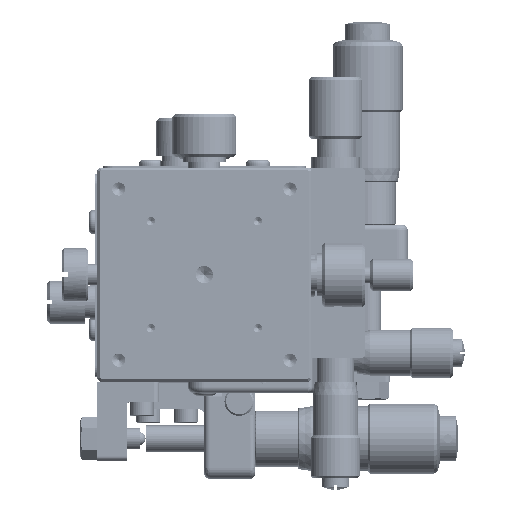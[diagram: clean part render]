
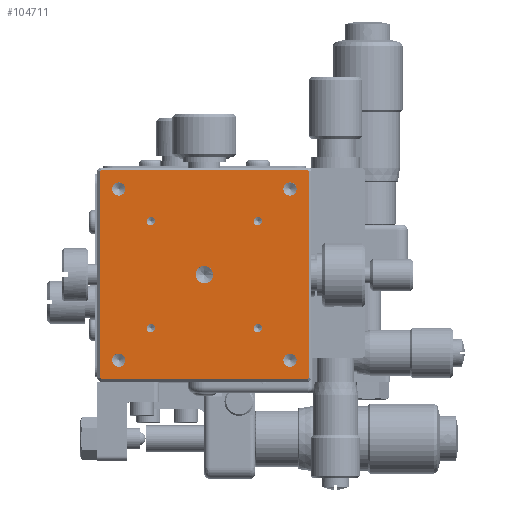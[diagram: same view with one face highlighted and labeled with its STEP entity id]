
A CAD part, top view. The second image highlights one B-rep face of the part: STEP entity #104711.
In plain terms, the highlighted planar face has unit normal (0, 0, 1).
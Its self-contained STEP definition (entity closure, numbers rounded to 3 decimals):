
#104252=CARTESIAN_POINT('',(19.5,19.293,-35.));
#104253=VERTEX_POINT('',#104252);
#104254=CARTESIAN_POINT('',(19.5,-19.293,-35.));
#104255=VERTEX_POINT('',#104254);
#104256=CARTESIAN_POINT('',(19.5,19.293,-35.));
#104257=DIRECTION('',(0.0,-1.0,0.0));
#104258=VECTOR('',#104257,38.586);
#104259=LINE('',#104256,#104258);
#104260=EDGE_CURVE('',#104253,#104255,#104259,.T.);
#104290=CARTESIAN_POINT('',(19.293,-19.5,-35.));
#104291=VERTEX_POINT('',#104290);
#104292=CARTESIAN_POINT('',(19.5,-19.293,-35.));
#104293=DIRECTION('',(-0.707,-0.707,0.0));
#104294=VECTOR('',#104293,0.293);
#104295=LINE('',#104292,#104294);
#104296=EDGE_CURVE('',#104255,#104291,#104295,.T.);
#104321=CARTESIAN_POINT('',(-19.293,-19.5,-35.));
#104322=VERTEX_POINT('',#104321);
#104323=CARTESIAN_POINT('',(19.293,-19.5,-35.));
#104324=DIRECTION('',(-1.0,0.0,0.0));
#104325=VECTOR('',#104324,38.586);
#104326=LINE('',#104323,#104325);
#104327=EDGE_CURVE('',#104291,#104322,#104326,.T.);
#104343=CARTESIAN_POINT('',(-19.5,19.293,-35.));
#104344=VERTEX_POINT('',#104343);
#104345=CARTESIAN_POINT('',(-19.293,19.5,-35.));
#104346=VERTEX_POINT('',#104345);
#104347=CARTESIAN_POINT('',(-19.5,19.293,-35.));
#104348=DIRECTION('',(0.707,0.707,0.0));
#104349=VECTOR('',#104348,0.293);
#104350=LINE('',#104347,#104349);
#104351=EDGE_CURVE('',#104344,#104346,#104350,.T.);
#104381=CARTESIAN_POINT('',(-19.5,-19.293,-35.));
#104382=VERTEX_POINT('',#104381);
#104383=CARTESIAN_POINT('',(-19.5,-19.293,-35.));
#104384=DIRECTION('',(0.0,1.0,0.0));
#104385=VECTOR('',#104384,38.586);
#104386=LINE('',#104383,#104385);
#104387=EDGE_CURVE('',#104382,#104344,#104386,.T.);
#104405=CARTESIAN_POINT('',(-19.293,-19.5,-35.));
#104406=DIRECTION('',(-0.707,0.707,0.0));
#104407=VECTOR('',#104406,0.293);
#104408=LINE('',#104405,#104407);
#104409=EDGE_CURVE('',#104322,#104382,#104408,.T.);
#104431=CARTESIAN_POINT('',(19.293,19.5,-35.));
#104432=VERTEX_POINT('',#104431);
#104433=CARTESIAN_POINT('',(-19.293,19.5,-35.));
#104434=DIRECTION('',(1.0,0.0,0.0));
#104435=VECTOR('',#104434,38.586);
#104436=LINE('',#104433,#104435);
#104437=EDGE_CURVE('',#104346,#104432,#104436,.T.);
#104453=CARTESIAN_POINT('',(19.293,19.5,-35.));
#104454=DIRECTION('',(0.707,-0.707,0.0));
#104455=VECTOR('',#104454,0.293);
#104456=LINE('',#104453,#104455);
#104457=EDGE_CURVE('',#104432,#104253,#104456,.T.);
#104597=CARTESIAN_POINT('',(0.0,-47.,-35.));
#104598=DIRECTION('',(0.0,0.0,-1.0));
#104599=DIRECTION('',(-1.0,0.0,0.0));
#104600=AXIS2_PLACEMENT_3D('',#104597,#104598,#104599);
#104601=PLANE('',#104600);
#104602=ORIENTED_EDGE('',*,*,#104351,.F.);
#104603=ORIENTED_EDGE('',*,*,#104387,.F.);
#104604=ORIENTED_EDGE('',*,*,#104409,.F.);
#104605=ORIENTED_EDGE('',*,*,#104327,.F.);
#104606=ORIENTED_EDGE('',*,*,#104296,.F.);
#104607=ORIENTED_EDGE('',*,*,#104260,.F.);
#104608=ORIENTED_EDGE('',*,*,#104457,.F.);
#104609=ORIENTED_EDGE('',*,*,#104437,.F.);
#104610=EDGE_LOOP('',(#104602,#104603,#104604,#104605,#104606,#104607,#104608,#104609));
#104611=FACE_OUTER_BOUND('',#104610,.T.);
#104612=CARTESIAN_POINT('',(10.784,-10.0,-35.));
#104613=VERTEX_POINT('',#104612);
#104614=CARTESIAN_POINT('',(10.0,-10.0,-35.));
#104615=DIRECTION('',(0.0,0.0,-1.0));
#104616=DIRECTION('',(1.0,0.0,0.0));
#104617=AXIS2_PLACEMENT_3D('',#104614,#104615,#104616);
#104618=CIRCLE('',#104617,0.784);
#104619=EDGE_CURVE('',#104613,#104613,#104618,.T.);
#104620=ORIENTED_EDGE('',*,*,#104619,.T.);
#104621=EDGE_LOOP('',(#104620));
#104622=FACE_BOUND('',#104621,.T.);
#104623=CARTESIAN_POINT('',(-9.217,-10.0,-35.));
#104624=VERTEX_POINT('',#104623);
#104625=CARTESIAN_POINT('',(-10.0,-10.0,-35.));
#104626=DIRECTION('',(0.0,0.0,-1.0));
#104627=DIRECTION('',(1.0,0.0,0.0));
#104628=AXIS2_PLACEMENT_3D('',#104625,#104626,#104627);
#104629=CIRCLE('',#104628,0.784);
#104630=EDGE_CURVE('',#104624,#104624,#104629,.T.);
#104631=ORIENTED_EDGE('',*,*,#104630,.T.);
#104632=EDGE_LOOP('',(#104631));
#104633=FACE_BOUND('',#104632,.T.);
#104634=CARTESIAN_POINT('',(10.784,10.0,-35.));
#104635=VERTEX_POINT('',#104634);
#104636=CARTESIAN_POINT('',(10.0,10.0,-35.));
#104637=DIRECTION('',(0.0,0.0,-1.0));
#104638=DIRECTION('',(1.0,0.0,0.0));
#104639=AXIS2_PLACEMENT_3D('',#104636,#104637,#104638);
#104640=CIRCLE('',#104639,0.784);
#104641=EDGE_CURVE('',#104635,#104635,#104640,.T.);
#104642=ORIENTED_EDGE('',*,*,#104641,.T.);
#104643=EDGE_LOOP('',(#104642));
#104644=FACE_BOUND('',#104643,.T.);
#104645=CARTESIAN_POINT('',(-9.217,10.0,-35.));
#104646=VERTEX_POINT('',#104645);
#104647=CARTESIAN_POINT('',(-10.0,10.0,-35.));
#104648=DIRECTION('',(0.0,0.0,-1.0));
#104649=DIRECTION('',(1.0,0.0,0.0));
#104650=AXIS2_PLACEMENT_3D('',#104647,#104648,#104649);
#104651=CIRCLE('',#104650,0.784);
#104652=EDGE_CURVE('',#104646,#104646,#104651,.T.);
#104653=ORIENTED_EDGE('',*,*,#104652,.T.);
#104654=EDGE_LOOP('',(#104653));
#104655=FACE_BOUND('',#104654,.T.);
#104656=CARTESIAN_POINT('',(1.621,0.0,-35.));
#104657=VERTEX_POINT('',#104656);
#104658=CARTESIAN_POINT('',(0.0,0.0,-35.));
#104659=DIRECTION('',(0.0,0.0,-1.0));
#104660=DIRECTION('',(1.0,0.0,0.0));
#104661=AXIS2_PLACEMENT_3D('',#104658,#104659,#104660);
#104662=CIRCLE('',#104661,1.621);
#104663=EDGE_CURVE('',#104657,#104657,#104662,.T.);
#104664=ORIENTED_EDGE('',*,*,#104663,.T.);
#104665=EDGE_LOOP('',(#104664));
#104666=FACE_BOUND('',#104665,.T.);
#104667=CARTESIAN_POINT('',(17.23,-16.0,-35.));
#104668=VERTEX_POINT('',#104667);
#104669=CARTESIAN_POINT('',(16.0,-16.0,-35.));
#104670=DIRECTION('',(0.0,0.0,-1.0));
#104671=DIRECTION('',(1.0,0.0,0.0));
#104672=AXIS2_PLACEMENT_3D('',#104669,#104670,#104671);
#104673=CIRCLE('',#104672,1.23);
#104674=EDGE_CURVE('',#104668,#104668,#104673,.T.);
#104675=ORIENTED_EDGE('',*,*,#104674,.T.);
#104676=EDGE_LOOP('',(#104675));
#104677=FACE_BOUND('',#104676,.T.);
#104678=CARTESIAN_POINT('',(-14.771,-16.0,-35.));
#104679=VERTEX_POINT('',#104678);
#104680=CARTESIAN_POINT('',(-16.0,-16.0,-35.));
#104681=DIRECTION('',(0.0,0.0,-1.0));
#104682=DIRECTION('',(1.0,0.0,0.0));
#104683=AXIS2_PLACEMENT_3D('',#104680,#104681,#104682);
#104684=CIRCLE('',#104683,1.23);
#104685=EDGE_CURVE('',#104679,#104679,#104684,.T.);
#104686=ORIENTED_EDGE('',*,*,#104685,.T.);
#104687=EDGE_LOOP('',(#104686));
#104688=FACE_BOUND('',#104687,.T.);
#104689=CARTESIAN_POINT('',(17.23,16.0,-35.));
#104690=VERTEX_POINT('',#104689);
#104691=CARTESIAN_POINT('',(16.0,16.0,-35.));
#104692=DIRECTION('',(0.0,0.0,-1.0));
#104693=DIRECTION('',(1.0,0.0,0.0));
#104694=AXIS2_PLACEMENT_3D('',#104691,#104692,#104693);
#104695=CIRCLE('',#104694,1.23);
#104696=EDGE_CURVE('',#104690,#104690,#104695,.T.);
#104697=ORIENTED_EDGE('',*,*,#104696,.T.);
#104698=EDGE_LOOP('',(#104697));
#104699=FACE_BOUND('',#104698,.T.);
#104700=CARTESIAN_POINT('',(-14.771,16.0,-35.));
#104701=VERTEX_POINT('',#104700);
#104702=CARTESIAN_POINT('',(-16.0,16.0,-35.));
#104703=DIRECTION('',(0.0,0.0,-1.0));
#104704=DIRECTION('',(1.0,0.0,0.0));
#104705=AXIS2_PLACEMENT_3D('',#104702,#104703,#104704);
#104706=CIRCLE('',#104705,1.23);
#104707=EDGE_CURVE('',#104701,#104701,#104706,.T.);
#104708=ORIENTED_EDGE('',*,*,#104707,.T.);
#104709=EDGE_LOOP('',(#104708));
#104710=FACE_BOUND('',#104709,.T.);
#104711=ADVANCED_FACE('',(#104611,#104622,#104633,#104644,#104655,#104666,#104677,#104688,#104699,#104710),#104601,.F.);
